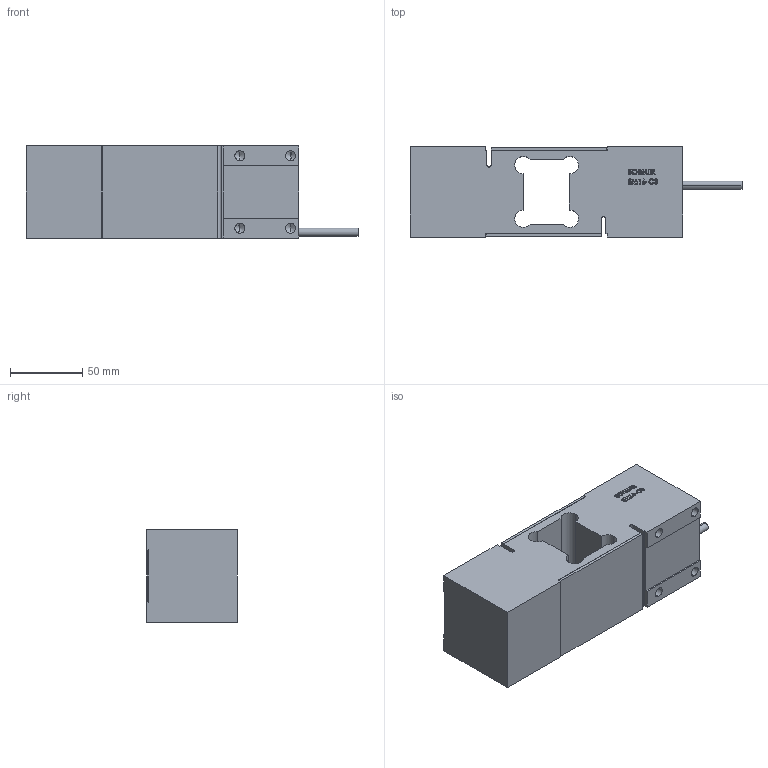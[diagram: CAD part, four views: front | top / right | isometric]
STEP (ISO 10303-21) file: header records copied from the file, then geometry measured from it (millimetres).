
FILE_DESCRIPTION (( 'STEP AP214' ), '1' );
FILE_NAME ('SM16.STEP', '2017-01-03T08:54:35', ( '' ), ( '' ), 'SwSTEP 2.0', 'SolidWorks 2014', '' );
FILE_SCHEMA (( 'AUTOMOTIVE_DESIGN' ));
Length unit declared in the file: millimetre
Products named in the file (1): SM16
Bounding box: 229 x 62.3 x 63.5 mm (x, y, z)
Volume: 614018.3 mm3; surface area: 93554.6 mm2
Topology: 3 solids, 3 shells, 267 faces, 712 edges, 461 vertices
Faces by surface type: plane 151, bspline 70, cylinder 28, cone 18
Entity records: 11788 total; most frequent: CARTESIAN_POINT 5577, ORIENTED_EDGE 1396, DIRECTION 1014, EDGE_CURVE 698, VECTOR 498, LINE 498, VERTEX_POINT 461, EDGE_LOOP 295
